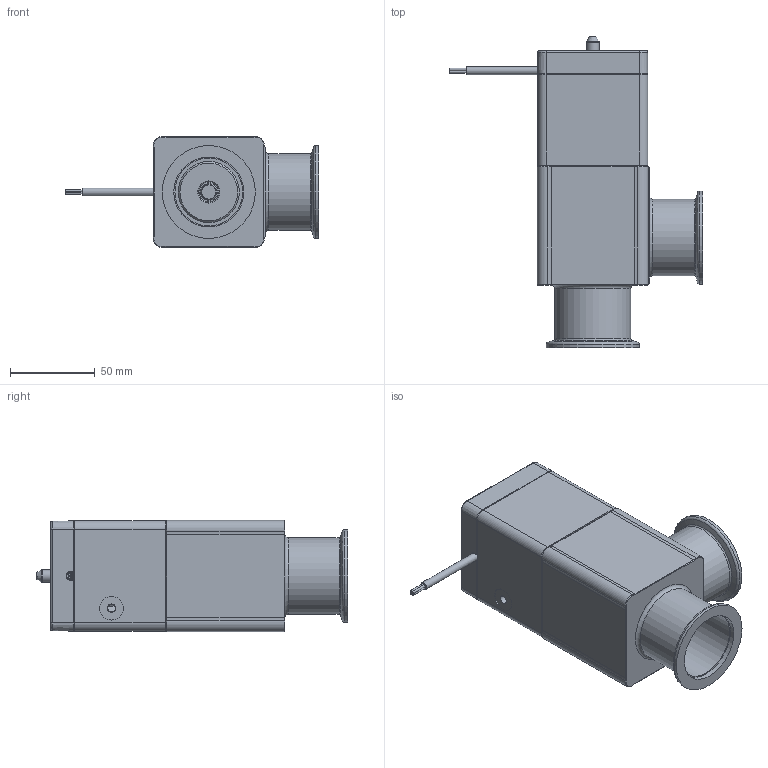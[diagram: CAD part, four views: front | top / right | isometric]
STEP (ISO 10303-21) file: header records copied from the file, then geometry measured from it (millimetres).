
FILE_DESCRIPTION(/* description */ (''),/* implementation_level */ '2;1');
FILE_NAME(/* name */ '1038903667_203.stp',/* time_stamp */ '2013-08-26T10:47:32+02:00',/* author */ (''),/* organization */ (''),/* preprocessor_version */ 'ST-DEVELOPER v11',/* originating_system */ 'SIEMENS PLM Software NX 7.5',/* authorisation */ '');
FILE_SCHEMA (('AP203_CONFIGURATION_CONTROLLED_3D_DESIGN_OF_MECHANICAL_PARTS_AND_ASSEMBLIES_MIM_LF'));
Length unit declared in the file: millimetre
Products named in the file (10): 239888_6.1; 233232; 236208.2; 236204_1.1; 243875.2; 232294.14; 239737.6; 240792.1; 402933; 701628
Assembly tree (14 placements, depth 3):
  701628
    240792.1  x4
    239737.6
    232294.14
    243875.2
    402933
      236204_1.1  x2
      236208.2  x2
      233232
      239888_6.1
Bounding box: 149.82 x 183.79 x 65.59 mm (x, y, z)
Volume: 309640.4 mm3; surface area: 128071.4 mm2
Topology: 21 solids, 21 shells, 686 faces, 1661 edges, 1076 vertices
Faces by surface type: plane 397, cylinder 156, cone 97, bspline 22, torus 12, sphere 2
Full cylindrical faces by diameter (mm): 1.4 x8, 2 x6, 2.2 x4, 2.5 x3, 2.95 x1, 3 x7, 3.2 x4, 3.26 x4, 3.3 x4, 4 x12, 4.5 x5, 4.6 x2, 4.7 x3, 5 x1, 5.6 x2, 7 x4, 7.4 x1, 8 x7, 9.1 x1, 10 x1, 11.975 x3, 12.012 x1, 12.013 x1, 13.85 x1, 14 x1, 16.555 x1, 36 x1, 40 x2, 41.3 x2, 45 x2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
Entity records: 18453 total; most frequent: CARTESIAN_POINT 3753, DIRECTION 2709, ORIENTED_EDGE 2460, EDGE_CURVE 1230, AXIS2_PLACEMENT_3D 963, VERTEX_POINT 887, EDGE_LOOP 821, LINE 783
